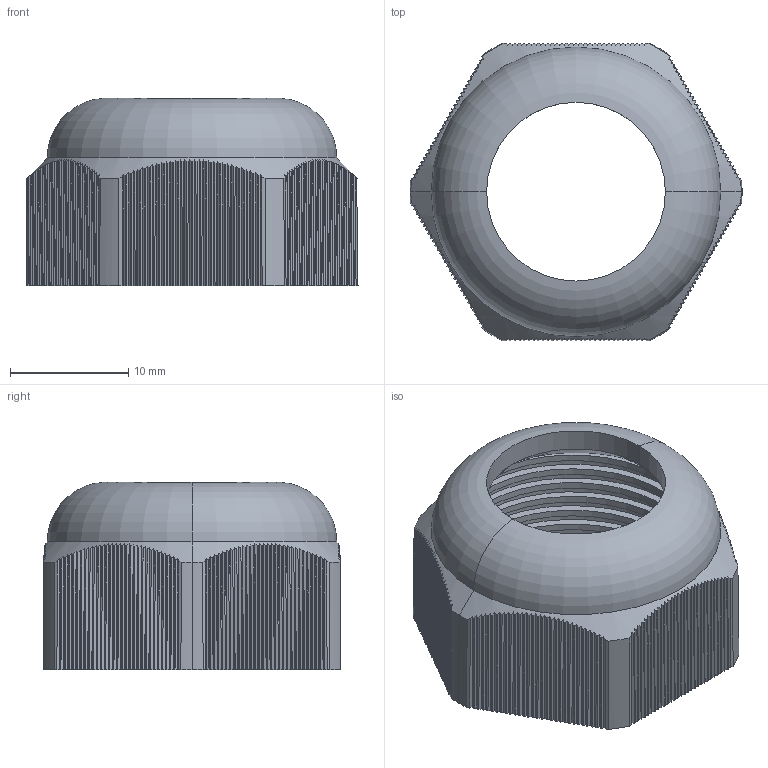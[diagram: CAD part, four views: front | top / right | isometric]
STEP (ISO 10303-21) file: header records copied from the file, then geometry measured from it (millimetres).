
FILE_DESCRIPTION (( 'STEP AP203' ), '1' );
FILE_NAME ('plc-pg-19-00.00.002 Ãàéêà öàíãîâàÿ (PG19) #collet nut (PG19)#.STEP', '2021-06-02T07:06:55', ( '' ), ( '' ), 'SwSTEP 2.0', 'SolidWorks 2021', '' );
FILE_SCHEMA (( 'CONFIG_CONTROL_DESIGN' ));
Length unit declared in the file: millimetre
Products named in the file (1): plc-pg-19-00.00.002 Ãàéêà öàíãîâàÿ (PG19) #collet nut (PG19)#
Bounding box: 28.08 x 25.2 x 15.84 mm (x, y, z)
Volume: 2491.2 mm3; surface area: 3579.5 mm2
Topology: 1 solids, 1 shells, 613 faces, 1817 edges, 1207 vertices
Faces by surface type: plane 556, cone 34, torus 11, cylinder 6, bspline 6
Entity records: 26049 total; most frequent: CARTESIAN_POINT 10804, ORIENTED_EDGE 3634, DIRECTION 2447, EDGE_CURVE 1817, VERTEX_POINT 1207, LINE 1121, VECTOR 1121, AXIS2_PLACEMENT_3D 663
